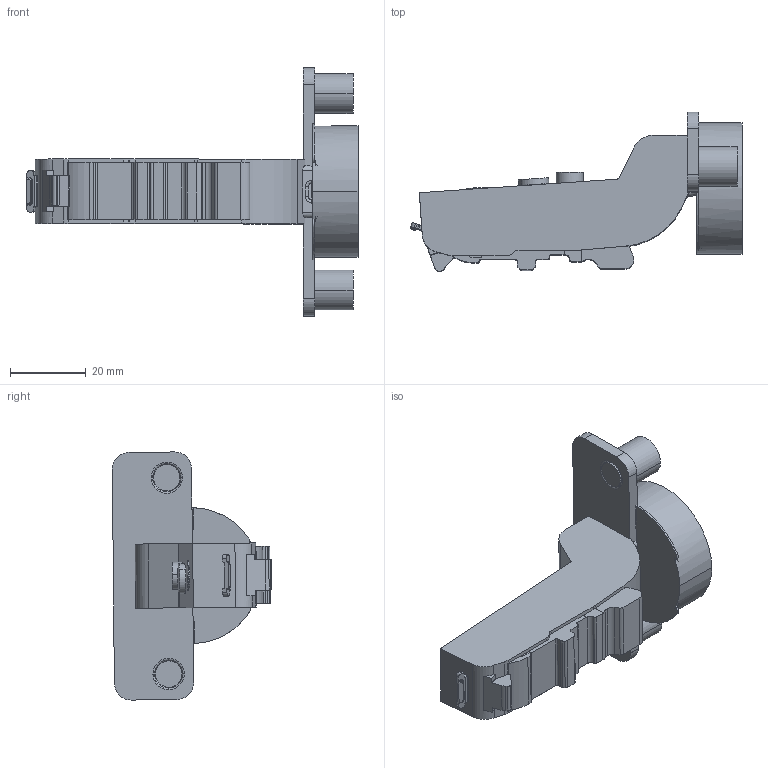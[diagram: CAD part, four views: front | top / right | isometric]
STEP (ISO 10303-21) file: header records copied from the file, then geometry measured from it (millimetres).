
FILE_DESCRIPTION (( 'STEP AP203' ), '1' );
FILE_NAME ('C81C877MFAB DTC 3D CLOSE.STEP', '2024-07-18T06:58:09', ( '微软用户' ), ( '微软中国' ), 'SwSTEP 2.0', 'SolidWorks 2021', '' );
FILE_SCHEMA (( 'CONFIG_CONTROL_DESIGN' ));
Length unit declared in the file: millimetre
Products named in the file (1): C81C877MFAB DTC 3D CLOSE
Bounding box: 87.94 x 42.2 x 65.71 mm (x, y, z)
Volume: 42387 mm3; surface area: 12278.2 mm2
Topology: 1 solids, 2 shells, 250 faces, 694 edges, 458 vertices
Faces by surface type: cylinder 110, plane 104, torus 20, bspline 12, cone 4
Entity records: 8325 total; most frequent: CARTESIAN_POINT 1769, ORIENTED_EDGE 1388, DIRECTION 1374, EDGE_CURVE 694, AXIS2_PLACEMENT_3D 503, VERTEX_POINT 458, LINE 368, VECTOR 368
